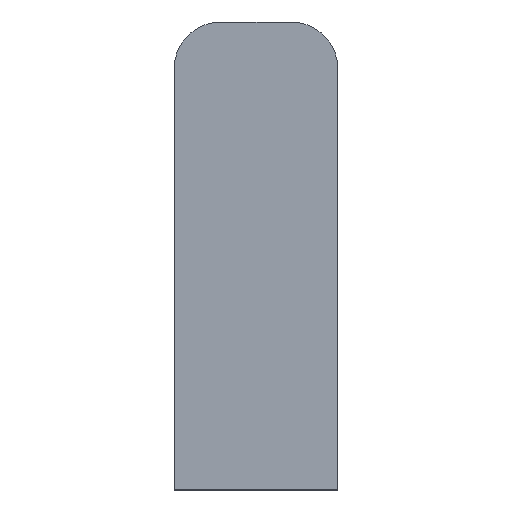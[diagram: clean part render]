
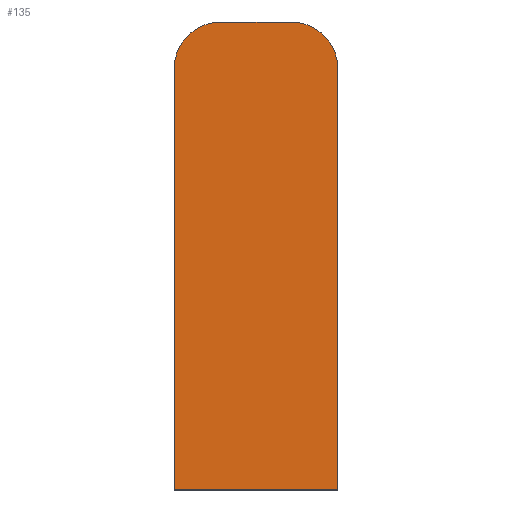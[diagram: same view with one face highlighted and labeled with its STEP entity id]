
A CAD part, front view. The second image highlights one B-rep face of the part: STEP entity #135.
In plain terms, the highlighted planar face has unit normal (0, -1, 0).
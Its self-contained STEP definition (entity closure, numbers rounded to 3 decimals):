
#3 = CARTESIAN_POINT ( 'NONE',  ( -5.25, 0., -16.5 ) ) ;
#10 = CARTESIAN_POINT ( 'NONE',  ( -2.25, 0., 13.5 ) ) ;
#11 = CARTESIAN_POINT ( 'NONE',  ( -5.25, 0., 10.5 ) ) ;
#37 = CARTESIAN_POINT ( 'NONE',  ( 5.25, 0., -16.5 ) ) ;
#45 = CARTESIAN_POINT ( 'NONE',  ( 5.25, 0., 10.5 ) ) ;
#60 = DIRECTION ( 'NONE',  ( -1., 0., 0. ) ) ;
#73 = CARTESIAN_POINT ( 'NONE',  ( 2.25, 0., 13.5 ) ) ;
#113 = CARTESIAN_POINT ( 'NONE',  ( 5.25, 0., -16.5 ) ) ;
#116 = DIRECTION ( 'NONE',  ( 0., 0., 1. ) ) ;
#133 = CARTESIAN_POINT ( 'NONE',  ( 2.25, 0., 13.5 ) ) ;
#135 = ADVANCED_FACE ( 'NONE', ( #460 ), #162, .F. ) ;
#161 = CARTESIAN_POINT ( 'NONE',  ( 0., 0., -1.5 ) ) ;
#162 = PLANE ( 'NONE',  #659 ) ;
#166 = VERTEX_POINT ( 'NONE', #37 ) ;
#172 = VERTEX_POINT ( 'NONE', #45 ) ;
#179 = VERTEX_POINT ( 'NONE', #11 ) ;
#182 = VERTEX_POINT ( 'NONE', #10 ) ;
#186 = VERTEX_POINT ( 'NONE', #3 ) ;
#199 = VERTEX_POINT ( 'NONE', #73 ) ;
#205 = DIRECTION ( 'NONE',  ( 0., 1., 0. ) ) ;
#206 = DIRECTION ( 'NONE',  ( -1., 0., 0. ) ) ;
#263 = CARTESIAN_POINT ( 'NONE',  ( 2.25, 0., 10.5 ) ) ;
#266 = CARTESIAN_POINT ( 'NONE',  ( -2.25, 0., 10.5 ) ) ;
#268 = DIRECTION ( 'NONE',  ( 0., -1., 0. ) ) ;
#269 = DIRECTION ( 'NONE',  ( -1., 0., 0. ) ) ;
#271 = DIRECTION ( 'NONE',  ( 0., -1., 0. ) ) ;
#272 = DIRECTION ( 'NONE',  ( -1., 0., 0. ) ) ;
#285 = CARTESIAN_POINT ( 'NONE',  ( -5.25, 0., -16.5 ) ) ;
#286 = DIRECTION ( 'NONE',  ( 0., 0., -1. ) ) ;
#291 = CARTESIAN_POINT ( 'NONE',  ( 5.25, 0., -16.5 ) ) ;
#292 = DIRECTION ( 'NONE',  ( 1., 0., 0. ) ) ;
#350 = EDGE_CURVE ( 'NONE', #166, #172, #570, .T. ) ;
#358 = EDGE_CURVE ( 'NONE', #199, #182, #548, .T. ) ;
#370 = ORIENTED_EDGE ( 'NONE', *, *, #358, .T. ) ;
#374 = ORIENTED_EDGE ( 'NONE', *, *, #673, .T. ) ;
#375 = ORIENTED_EDGE ( 'NONE', *, *, #692, .T. ) ;
#391 = ORIENTED_EDGE ( 'NONE', *, *, #672, .T. ) ;
#408 = ORIENTED_EDGE ( 'NONE', *, *, #350, .T. ) ;
#460 = FACE_OUTER_BOUND ( 'NONE', #496, .T. ) ;
#481 = ORIENTED_EDGE ( 'NONE', *, *, #695, .T. ) ;
#496 = EDGE_LOOP ( 'NONE', ( #408, #374, #370, #391, #375, #481 ) ) ;
#544 = VECTOR ( 'NONE', #60, 1000. ) ;
#548 = LINE ( 'NONE', #133, #544 ) ;
#570 = LINE ( 'NONE', #113, #574 ) ;
#574 = VECTOR ( 'NONE', #116, 1000. ) ;
#606 = CIRCLE ( 'NONE', #708, 3. ) ;
#607 = CIRCLE ( 'NONE', #689, 3. ) ;
#618 = LINE ( 'NONE', #285, #619 ) ;
#619 = VECTOR ( 'NONE', #286, 1000. ) ;
#624 = LINE ( 'NONE', #291, #625 ) ;
#625 = VECTOR ( 'NONE', #292, 1000. ) ;
#659 = AXIS2_PLACEMENT_3D ( 'NONE', #161, #205, #206 ) ;
#672 = EDGE_CURVE ( 'NONE', #182, #179, #606, .T. ) ;
#673 = EDGE_CURVE ( 'NONE', #172, #199, #607, .T. ) ;
#689 = AXIS2_PLACEMENT_3D ( 'NONE', #263, #271, #272 ) ;
#692 = EDGE_CURVE ( 'NONE', #179, #186, #618, .T. ) ;
#695 = EDGE_CURVE ( 'NONE', #186, #166, #624, .T. ) ;
#708 = AXIS2_PLACEMENT_3D ( 'NONE', #266, #268, #269 ) ;
